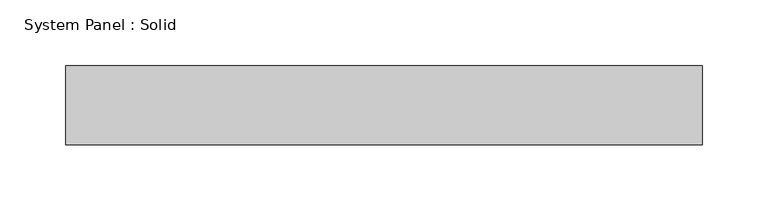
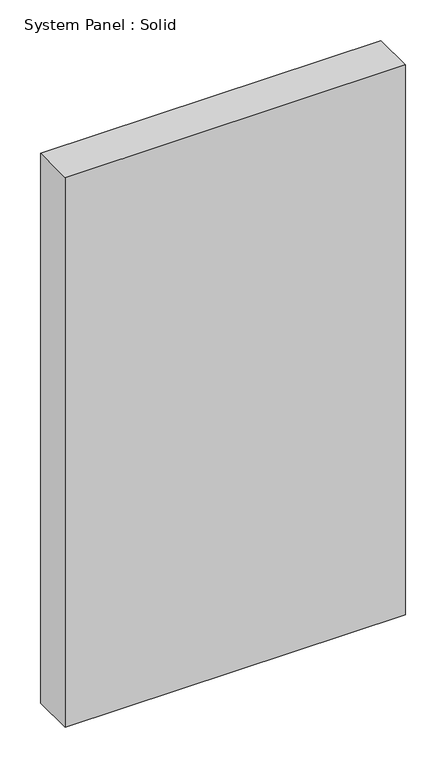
"""IFC4 building model written with IfcOpenShell, lengths in millimetres: plate geometry, System Panel : Solid."""

from ifc_helpers import new_model, si_unit, origin, origin_with_axes, place, context, project, spatial, polyline, outline, extrude, source, transform, mapped, element, save


def system_panel_solid_e171d4ab(model_context):
    return source(origin(), model_context, "Body", "SweptSolid", [
        extrude(outline(polyline([(241.6666667, -10.5), (-241.6666667, -10.5), (-241.6666667, 49.5), (241.6666667, 49.5), (241.6666667, -10.5)])), origin_with_axes(), (0.0, 0.0, 1.0), 825.0),
    ])


if __name__ == "__main__":
    model = new_model("IFC4")
    model_context = context("Model", 3, world=origin())
    ifc_project = project(units=[si_unit("LENGTHUNIT", "METRE", prefix="MILLI")], contexts=[model_context])
    site = spatial("IfcSite", under=ifc_project)
    building = spatial("IfcBuilding", under=site)
    placement = place(None, origin())
    system_panel_solid_shape = system_panel_solid_e171d4ab(model_context)
    element("IfcPlate", 1, ObjectType="System Panel : Solid", at=placement, inside=building, context=model_context, shape_type="MappedRepresentation", body=[
        mapped(system_panel_solid_shape, transform((0.0, 0.0, 0.0), x_axis=(1.0, 0.0, 0.0), y_axis=(0.0, 1.0, 0.0), z_axis=(0.0, 0.0, 1.0))),
    ])
    save(model, "model.ifc")
